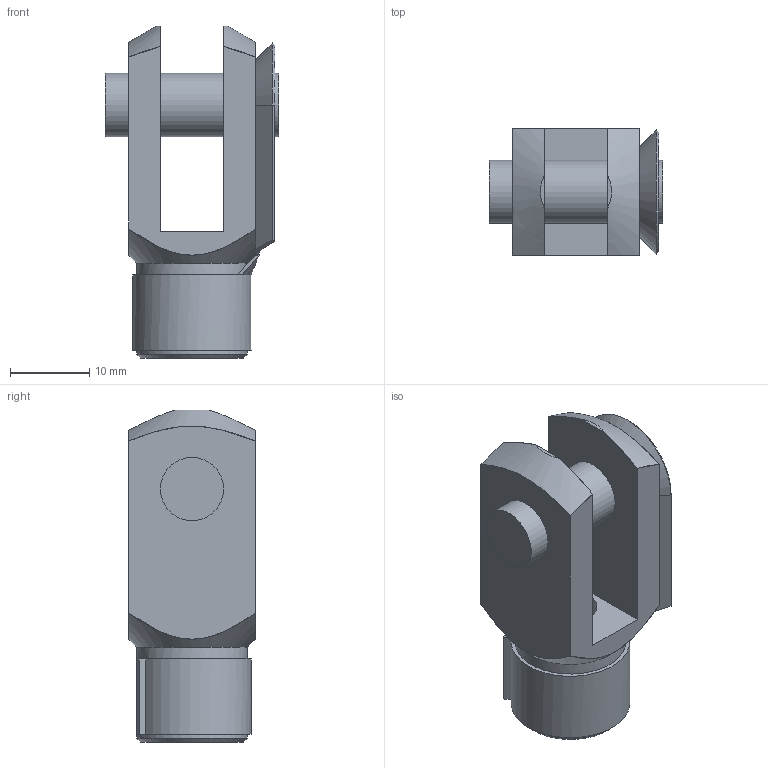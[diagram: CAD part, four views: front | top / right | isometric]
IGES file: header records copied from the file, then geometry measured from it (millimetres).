
Global section: file name: No Iges File Name specified; native system: AutoDesk Inventor R6.0; preprocessor: AutoDesk Inventor Iges Exporter R6.0; author: No Author specified; organization: No Organization specified; date: 20030418.091340; units: millimetre
Bounding box: 22 x 16 x 42 mm (x, y, z)
Surface area: 4153.4 mm2 (no closed solid volume)
Topology: 0 solids, 0 shells, 54 faces, 264 edges, 255 vertices
Faces by surface type: plane 35, revolution 14, bspline 5
